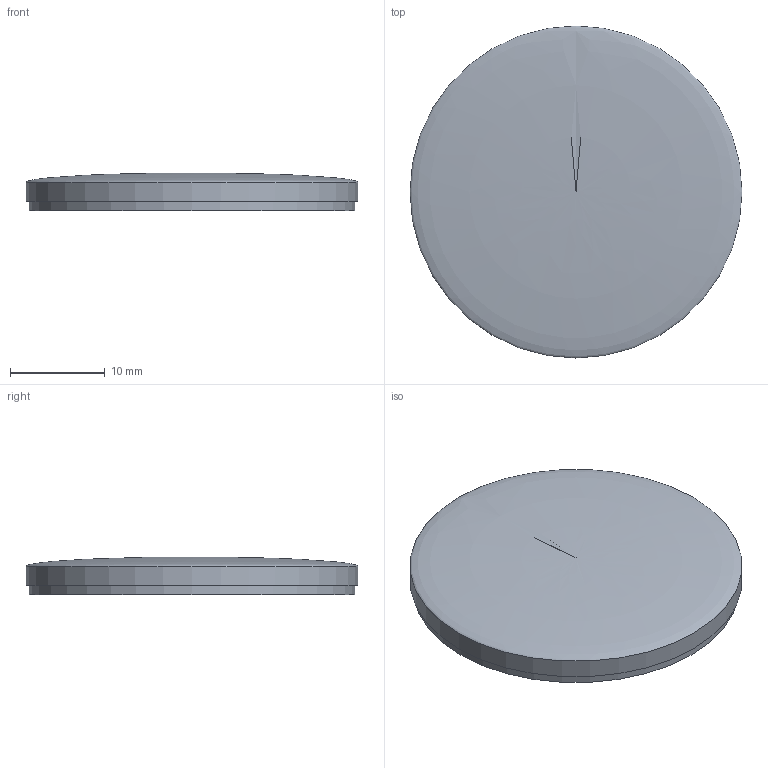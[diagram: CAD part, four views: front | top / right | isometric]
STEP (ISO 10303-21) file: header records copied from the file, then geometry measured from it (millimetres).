
FILE_DESCRIPTION(/* description */ ('Alibre Inc.'),/* implementation_level */ '2;1');
FILE_NAME(/* name */ 'export-B5660402-3B28-455F-999C-05E71CA7858F',/* time_stamp */ '2026-03-20T08:46:14-06:00',/* author */ (''),/* organization */ (''),/* preprocessor_version */ 'ST-DEVELOPER v17',/* originating_system */ 'Alibre',/* authorisation */ '');
FILE_SCHEMA (('CONFIG_CONTROL_DESIGN'));
Length unit declared in the file: centimetre
Bounding box: 35 x 35 x 4 mm (x, y, z)
Volume: 3489.5 mm3; surface area: 2263.1 mm2
Topology: 1 solids, 1 shells, 5 faces, 9 edges, 6 vertices
Faces by surface type: cylinder 2, plane 2, revolution 1
Full cylindrical faces by diameter (mm): 34.298 x1, 35 x1
Entity records: 189 total; most frequent: CARTESIAN_POINT 18, DIRECTION 17, ORIENTED_EDGE 10, AXIS2_PLACEMENT_3D 9, ORGANIZATION 8, PERSON 8, PERSON_AND_ORGANIZATION 8, EDGE_LOOP 8
